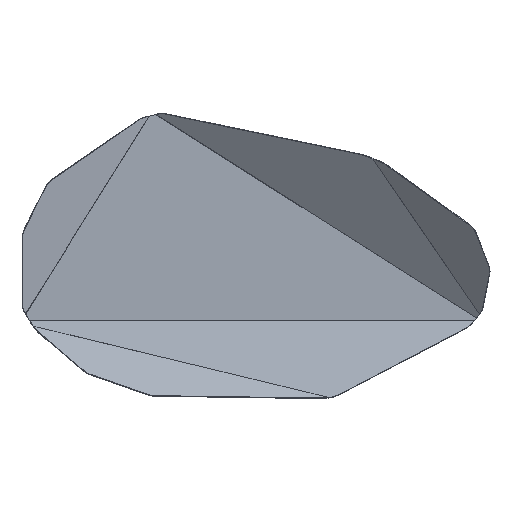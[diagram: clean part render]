
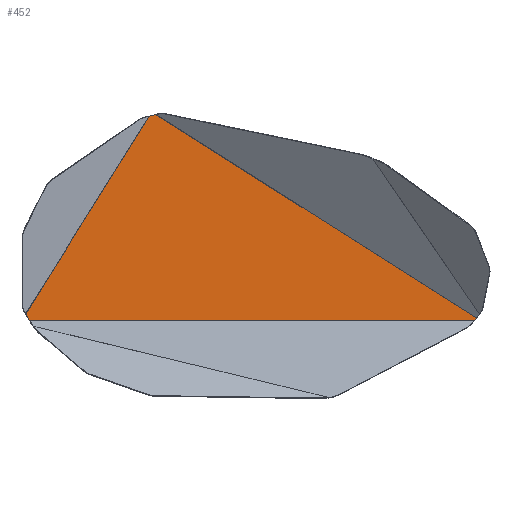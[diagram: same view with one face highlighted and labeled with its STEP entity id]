
A CAD part, top view. The second image highlights one B-rep face of the part: STEP entity #452.
In plain terms, the highlighted planar face has unit normal (0, 0, 1).
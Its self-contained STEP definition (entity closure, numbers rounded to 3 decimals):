
#42=PLANE('',#1419);
#200=B_SPLINE_CURVE_WITH_KNOTS('',1,(#2504,#2505,#2506,#2507,#2508,#2509,
#2510),.UNSPECIFIED.,.T.,.F.,(2,1,1,1,1,1,2),(0.,1.,2.,3.,4.,5.,6.),
 .UNSPECIFIED.);
#452=ADVANCED_FACE('',(#533),#42,.T.);
#533=FACE_OUTER_BOUND('',#614,.T.);
#614=EDGE_LOOP('',(#785));
#785=ORIENTED_EDGE('',*,*,#992,.T.);
#992=EDGE_CURVE('',#1214,#1214,#200,.T.);
#1214=VERTEX_POINT('',#2503);
#1419=AXIS2_PLACEMENT_3D('',#2502,#1494,$);
#1494=DIRECTION('',(0.,0.,1.));
#2502=CARTESIAN_POINT('',(780.714,476.326,11.5));
#2503=CARTESIAN_POINT('',(775.419,137.708,11.5));
#2504=CARTESIAN_POINT('',(775.419,137.708,11.5));
#2505=CARTESIAN_POINT('',(227.808,484.97,11.5));
#2506=CARTESIAN_POINT('',(216.969,482.181,11.5));
#2507=CARTESIAN_POINT('',(6.247,144.277,11.5));
#2508=CARTESIAN_POINT('',(12.443,133.829,11.5));
#2509=CARTESIAN_POINT('',(772.421,133.829,11.5));
#2510=CARTESIAN_POINT('',(775.419,137.708,11.5));
